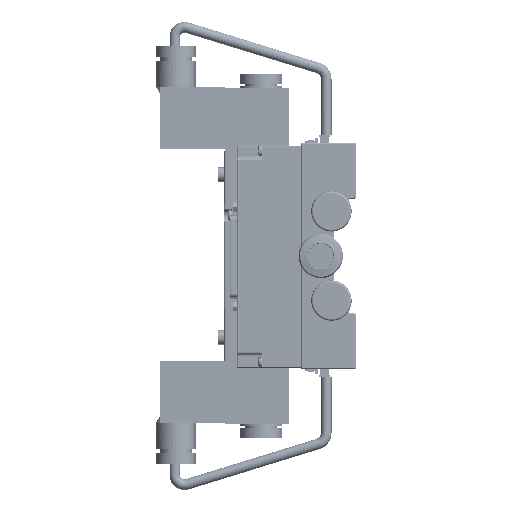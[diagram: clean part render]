
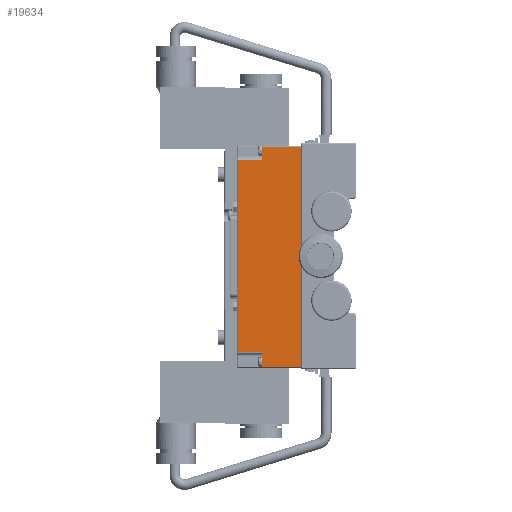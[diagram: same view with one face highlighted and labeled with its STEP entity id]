
A CAD part, left-side view. The second image highlights one B-rep face of the part: STEP entity #19634.
In plain terms, the highlighted planar face has unit normal (-1, 0, 0) as drawn and (0, -1, 0) by its records, which use the part's own axes.
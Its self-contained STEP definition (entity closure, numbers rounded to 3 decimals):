
#701 = DIRECTION ( 'NONE',  ( 0., -1., 0. ) ) ;
#5616 = VECTOR ( 'NONE', #41678, 1000. ) ;
#8409 = CARTESIAN_POINT ( 'NONE',  ( -1.31, 15.005, 26. ) ) ;
#8459 = VECTOR ( 'NONE', #30893, 1000. ) ;
#10100 = LINE ( 'NONE', #41758, #76844 ) ;
#11215 = DIRECTION ( 'NONE',  ( -1., 0., 0. ) ) ;
#11290 = ORIENTED_EDGE ( 'NONE', *, *, #20087, .T. ) ;
#14528 = LINE ( 'NONE', #8409, #8459 ) ;
#15332 = AXIS2_PLACEMENT_3D ( 'NONE', #96012, #701, #11215 ) ;
#15363 = VERTEX_POINT ( 'NONE', #57473 ) ;
#18115 = CARTESIAN_POINT ( 'NONE',  ( -98.59, 15.005, 44. ) ) ;
#18161 = LINE ( 'NONE', #89138, #5616 ) ;
#18241 = VECTOR ( 'NONE', #64522, 1000. ) ;
#18852 = PLANE ( 'NONE',  #15332 ) ;
#19495 = DIRECTION ( 'NONE',  ( 0., 0., 1. ) ) ;
#19634 = ADVANCED_FACE ( 'NONE', ( #72519 ), #18852, .T. ) ;
#20087 = EDGE_CURVE ( 'NONE', #73555, #90685, #10100, .T. ) ;
#21325 = CARTESIAN_POINT ( 'NONE',  ( -105.4, 15.005, 44. ) ) ;
#22053 = EDGE_CURVE ( 'NONE', #66113, #34689, #80815, .T. ) ;
#22467 = LINE ( 'NONE', #100136, #59916 ) ;
#29946 = ORIENTED_EDGE ( 'NONE', *, *, #22053, .F. ) ;
#30893 = DIRECTION ( 'NONE',  ( -1., 0., 0. ) ) ;
#32485 = VECTOR ( 'NONE', #80913, 1000. ) ;
#33172 = VECTOR ( 'NONE', #49710, 1000. ) ;
#33396 = CARTESIAN_POINT ( 'NONE',  ( -107.1, 15.005, 44. ) ) ;
#34689 = VERTEX_POINT ( 'NONE', #83087 ) ;
#35813 = VERTEX_POINT ( 'NONE', #59670 ) ;
#36061 = VERTEX_POINT ( 'NONE', #56061 ) ;
#37002 = ORIENTED_EDGE ( 'NONE', *, *, #61360, .T. ) ;
#41678 = DIRECTION ( 'NONE',  ( -1., 0., 0. ) ) ;
#41758 = CARTESIAN_POINT ( 'NONE',  ( -8.21, 15.005, 56. ) ) ;
#42252 = DIRECTION ( 'NONE',  ( 0., 0., 1. ) ) ;
#43707 = EDGE_CURVE ( 'NONE', #81337, #36061, #14528, .T. ) ;
#48071 = CARTESIAN_POINT ( 'NONE',  ( -1.81, 15.005, 26. ) ) ;
#48213 = LINE ( 'NONE', #79346, #33172 ) ;
#48747 = ORIENTED_EDGE ( 'NONE', *, *, #65969, .T. ) ;
#48997 = VECTOR ( 'NONE', #19495, 1000. ) ;
#49710 = DIRECTION ( 'NONE',  ( -1., 0., 0. ) ) ;
#53629 = DIRECTION ( 'NONE',  ( 0., 0., -1. ) ) ;
#56061 = CARTESIAN_POINT ( 'NONE',  ( -105.4, 15.005, 26. ) ) ;
#57473 = CARTESIAN_POINT ( 'NONE',  ( -1.81, 15.005, 44. ) ) ;
#59670 = CARTESIAN_POINT ( 'NONE',  ( -98.59, 15.005, 55.5 ) ) ;
#59916 = VECTOR ( 'NONE', #53629, 1000. ) ;
#60611 = CARTESIAN_POINT ( 'NONE',  ( -8.21, 15.005, 55.5 ) ) ;
#60841 = ORIENTED_EDGE ( 'NONE', *, *, #77710, .T. ) ;
#60886 = CARTESIAN_POINT ( 'NONE',  ( -1.81, 15.005, 56. ) ) ;
#61360 = EDGE_CURVE ( 'NONE', #15363, #73555, #18161, .T. ) ;
#64522 = DIRECTION ( 'NONE',  ( 1., 0., 0. ) ) ;
#65107 = LINE ( 'NONE', #18115, #32485 ) ;
#65969 = EDGE_CURVE ( 'NONE', #66113, #36061, #22467, .T. ) ;
#66113 = VERTEX_POINT ( 'NONE', #21325 ) ;
#70658 = ORIENTED_EDGE ( 'NONE', *, *, #43707, .F. ) ;
#72519 = FACE_OUTER_BOUND ( 'NONE', #92219, .T. ) ;
#73555 = VERTEX_POINT ( 'NONE', #85405 ) ;
#74164 = LINE ( 'NONE', #60886, #48997 ) ;
#74907 = ORIENTED_EDGE ( 'NONE', *, *, #99911, .T. ) ;
#76106 = EDGE_CURVE ( 'NONE', #35813, #34689, #65107, .T. ) ;
#76844 = VECTOR ( 'NONE', #42252, 1000. ) ;
#77710 = EDGE_CURVE ( 'NONE', #81337, #15363, #74164, .T. ) ;
#79346 = CARTESIAN_POINT ( 'NONE',  ( -99.09, 15.005, 55.5 ) ) ;
#80815 = LINE ( 'NONE', #33396, #18241 ) ;
#80913 = DIRECTION ( 'NONE',  ( 0., 0., -1. ) ) ;
#81337 = VERTEX_POINT ( 'NONE', #48071 ) ;
#82483 = ORIENTED_EDGE ( 'NONE', *, *, #76106, .T. ) ;
#83087 = CARTESIAN_POINT ( 'NONE',  ( -98.59, 15.005, 44. ) ) ;
#85405 = CARTESIAN_POINT ( 'NONE',  ( -8.21, 15.005, 44. ) ) ;
#89138 = CARTESIAN_POINT ( 'NONE',  ( 0.3, 15.005, 44. ) ) ;
#90685 = VERTEX_POINT ( 'NONE', #60611 ) ;
#92219 = EDGE_LOOP ( 'NONE', ( #70658, #60841, #37002, #11290, #74907, #82483, #29946, #48747 ) ) ;
#96012 = CARTESIAN_POINT ( 'NONE',  ( -1.31, 15.005, 56. ) ) ;
#99911 = EDGE_CURVE ( 'NONE', #90685, #35813, #48213, .T. ) ;
#100136 = CARTESIAN_POINT ( 'NONE',  ( -105.4, 15.005, 56. ) ) ;
